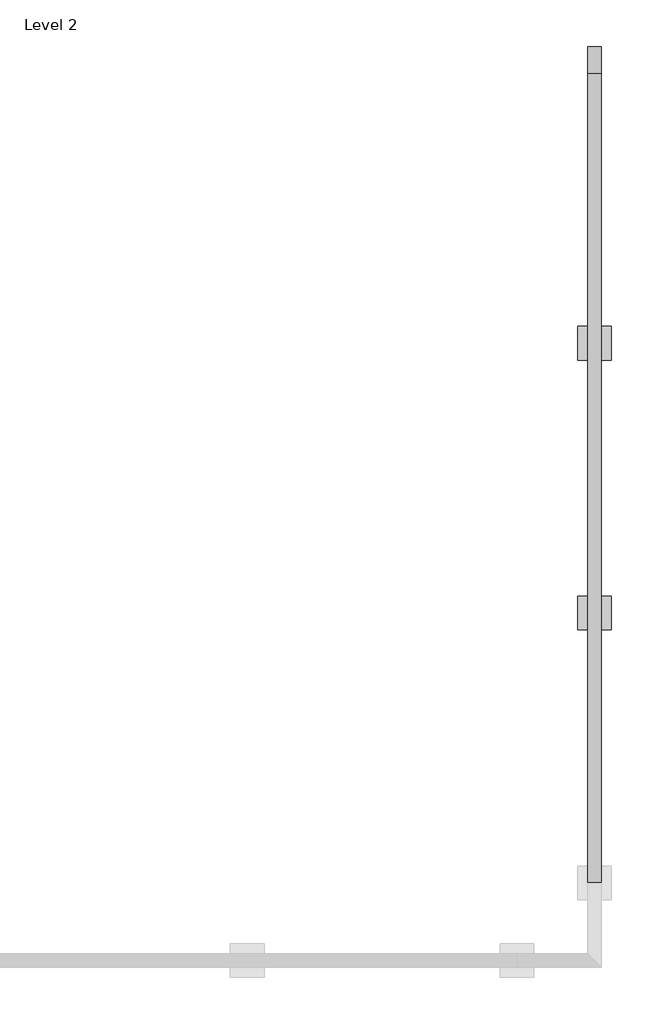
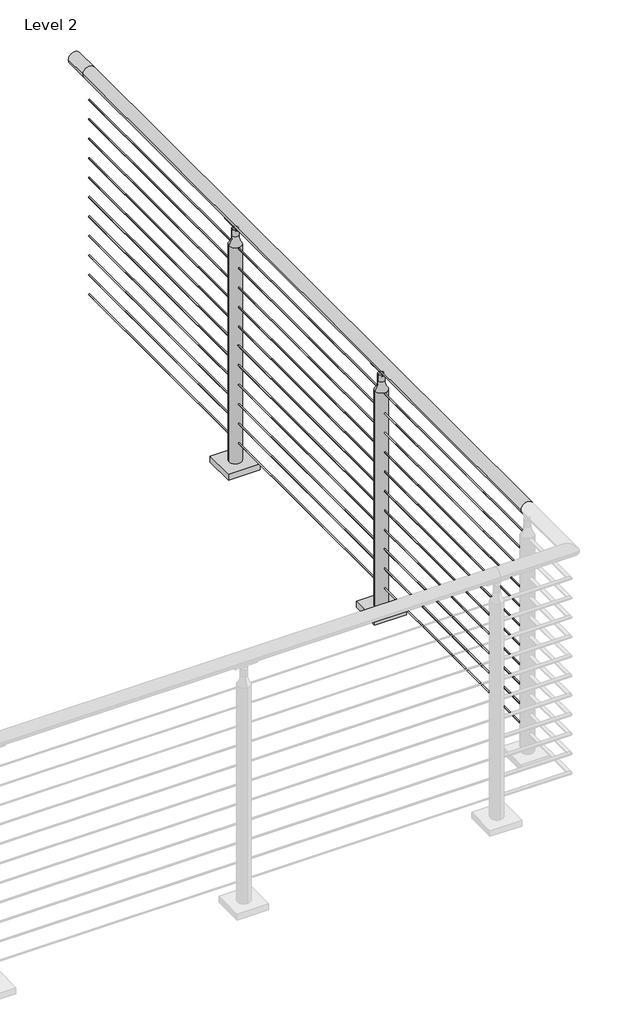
# One storey, part 13 of 21: 1 railing.
"""IFC4 building model written with IfcOpenShell, lengths in millimetres."""

from ifc_helpers import new_model, si_unit, point, frame, frame_2d, origin, place, context, project, spatial, polyline, circle_curve, ellipse_curve, trimmed, segment, composite_curve, outline, extrude, element, save
from ifc_brep_helpers import plane_surface, cylinder_surface, revolved_surface, advanced_brep

model = new_model("IFC4")

# Units and contexts
model_context = context("Model", 3, world=origin())
ifc_project = project(units=[si_unit("LENGTHUNIT", "METRE", prefix="MILLI")], contexts=[model_context])

# Site, building, storey
site = spatial("IfcSite", under=ifc_project)
building = spatial("IfcBuilding", under=site)
storey = spatial("IfcBuildingStorey", under=building, Name="Level 2", Elevation=3048.0)

# Railing
placement = place(None, origin())
element("IfcRailing", 1, ObjectType="VIVA-CIRCA-Cable-Floor Mount-Straight", at=placement, inside=storey, context=model_context, shape_type="SolidModel", body=[
    advanced_brep(
    [(20840.5072927, -51812.6426165, 4102.1), (20789.7072927, -51812.6426165, 4102.1), (20840.5072927, -48764.6426165, 4102.1), (20789.7072927, -48764.6426165, 4102.1), (20840.5072927, -48663.0426165, 4102.1), (20789.7072927, -48663.0426165, 4102.1)],
    [
        (0, 1, circle_curve(frame((20815.1072927, -51812.6426165, 4102.1), z_axis=(0.0, -1.0, 0.0), x_axis=(-1.0, 0.0, 0.0)), 25.4)),
        (1, 0, circle_curve(frame((20815.1072927, -51812.6426165, 4102.1), z_axis=(0.0, -1.0, 0.0), x_axis=(-1.0, 0.0, 0.0)), 25.4)),
        (0, 2),
        (2, 3, circle_curve(frame((20815.1072927, -48764.6426165, 4102.1), z_axis=(0.0, -1.0, 0.0), x_axis=(-1.0, 0.0, 0.0)), 25.4)),
        (3, 1),
        (3, 2, circle_curve(frame((20815.1072927, -48764.6426165, 4102.1), z_axis=(0.0, -1.0, 0.0), x_axis=(-1.0, 0.0, 0.0)), 25.4)),
        (4, 5, circle_curve(frame((20815.1072927, -48663.0426165, 4102.1), z_axis=(0.0, 1.0, 0.0), x_axis=(-1.0, 0.0, 0.0)), 25.4)),
        (5, 4, circle_curve(frame((20815.1072927, -48663.0426165, 4102.1), z_axis=(0.0, 1.0, 0.0), x_axis=(-1.0, 0.0, 0.0)), 25.4)),
        (2, 4),
        (5, 3),
    ],
    [
        plane_surface(frame((20815.1072927, -51812.6426165, 4127.5), z_axis=(0.0, -1.0, 0.0), x_axis=(0.0, 0.0, 1.0))),
        cylinder_surface(frame((20815.1072927, -51812.6426165, 4102.1), z_axis=(0.0, -1.0, 0.0), x_axis=(-1.0, 0.0, 0.0)), 25.4),
        plane_surface(frame((20815.1072927, -48663.0426165, 4127.5), z_axis=(0.0, 1.0, 0.0), x_axis=(0.0, 0.0, 1.0))),
        cylinder_surface(frame((20815.1072927, -48764.6426165, 4102.1), z_axis=(0.0, -1.0, 0.0), x_axis=(-1.0, 0.0, 0.0)), 25.4),
    ],
    [
        (0, [[1, 2]]),
        (1, [[-1, 3, 4, 5]]),
        (1, [[-2, -5, 6, -3]]),
        (2, [[7, 8]]),
        (3, [[-4, 9, -8, 10]]),
        (3, [[-6, -10, -7, -9]]),
    ],
),
    extrude(outline(composite_curve([segment(trimmed(circle_curve(frame_2d((3985.4124, 20815.1072927)), 2.3876), [point((3985.4124, 20812.7196927))], [point((3985.4124, 20817.4948927))], False, "CARTESIAN"), True, "CONTINUOUS"), segment(trimmed(circle_curve(frame_2d((3985.4124, 20815.1072927)), 2.3876), [point((3985.4124, 20817.4948927))], [point((3985.4124, 20812.7196927))], False, "CARTESIAN"), True, "CONTINUOUS")], self_intersect=False)), frame((0.0, -51812.6426165, 0.0), z_axis=(0.0, 1.0, 0.0), x_axis=(0.0, 0.0, 1.0)), (0.0, 0.0, 1.0), 3048.0),
    extrude(outline(composite_curve([segment(trimmed(circle_curve(frame_2d((3902.8624, 20815.1072927)), 2.3876), [point((3902.8624, 20812.7196927))], [point((3902.8624, 20817.4948927))], False, "CARTESIAN"), True, "CONTINUOUS"), segment(trimmed(circle_curve(frame_2d((3902.8624, 20815.1072927)), 2.3876), [point((3902.8624, 20817.4948927))], [point((3902.8624, 20812.7196927))], False, "CARTESIAN"), True, "CONTINUOUS")], self_intersect=False)), frame((0.0, -51812.6426165, 0.0), z_axis=(0.0, 1.0, 0.0), x_axis=(0.0, 0.0, 1.0)), (0.0, 0.0, 1.0), 3048.0),
    extrude(outline(composite_curve([segment(trimmed(circle_curve(frame_2d((3820.3124, 20815.1072927)), 2.3876), [point((3820.3124, 20812.7196927))], [point((3820.3124, 20817.4948927))], False, "CARTESIAN"), True, "CONTINUOUS"), segment(trimmed(circle_curve(frame_2d((3820.3124, 20815.1072927)), 2.3876), [point((3820.3124, 20817.4948927))], [point((3820.3124, 20812.7196927))], False, "CARTESIAN"), True, "CONTINUOUS")], self_intersect=False)), frame((0.0, -51812.6426165, 0.0), z_axis=(0.0, 1.0, 0.0), x_axis=(0.0, 0.0, 1.0)), (0.0, 0.0, 1.0), 3048.0),
    extrude(outline(composite_curve([segment(trimmed(circle_curve(frame_2d((3737.7624, 20815.1072927)), 2.3876), [point((3737.7624, 20812.7196927))], [point((3737.7624, 20817.4948927))], False, "CARTESIAN"), True, "CONTINUOUS"), segment(trimmed(circle_curve(frame_2d((3737.7624, 20815.1072927)), 2.3876), [point((3737.7624, 20817.4948927))], [point((3737.7624, 20812.7196927))], False, "CARTESIAN"), True, "CONTINUOUS")], self_intersect=False)), frame((0.0, -51812.6426165, 0.0), z_axis=(0.0, 1.0, 0.0), x_axis=(0.0, 0.0, 1.0)), (0.0, 0.0, 1.0), 3048.0),
    extrude(outline(composite_curve([segment(trimmed(circle_curve(frame_2d((3655.2124, 20815.1072927)), 2.3876), [point((3655.2124, 20812.7196927))], [point((3655.2124, 20817.4948927))], False, "CARTESIAN"), True, "CONTINUOUS"), segment(trimmed(circle_curve(frame_2d((3655.2124, 20815.1072927)), 2.3876), [point((3655.2124, 20817.4948927))], [point((3655.2124, 20812.7196927))], False, "CARTESIAN"), True, "CONTINUOUS")], self_intersect=False)), frame((0.0, -51812.6426165, 0.0), z_axis=(0.0, 1.0, 0.0), x_axis=(0.0, 0.0, 1.0)), (0.0, 0.0, 1.0), 3048.0),
    extrude(outline(composite_curve([segment(trimmed(circle_curve(frame_2d((3572.6624, 20815.1072927)), 2.3876), [point((3572.6624, 20812.7196927))], [point((3572.6624, 20817.4948927))], False, "CARTESIAN"), True, "CONTINUOUS"), segment(trimmed(circle_curve(frame_2d((3572.6624, 20815.1072927)), 2.3876), [point((3572.6624, 20817.4948927))], [point((3572.6624, 20812.7196927))], False, "CARTESIAN"), True, "CONTINUOUS")], self_intersect=False)), frame((0.0, -51812.6426165, 0.0), z_axis=(0.0, 1.0, 0.0), x_axis=(0.0, 0.0, 1.0)), (0.0, 0.0, 1.0), 3048.0),
    extrude(outline(composite_curve([segment(trimmed(circle_curve(frame_2d((3490.1124, 20815.1072927)), 2.3876), [point((3490.1124, 20812.7196927))], [point((3490.1124, 20817.4948927))], False, "CARTESIAN"), True, "CONTINUOUS"), segment(trimmed(circle_curve(frame_2d((3490.1124, 20815.1072927)), 2.3876), [point((3490.1124, 20817.4948927))], [point((3490.1124, 20812.7196927))], False, "CARTESIAN"), True, "CONTINUOUS")], self_intersect=False)), frame((0.0, -51812.6426165, 0.0), z_axis=(0.0, 1.0, 0.0), x_axis=(0.0, 0.0, 1.0)), (0.0, 0.0, 1.0), 3048.0),
    extrude(outline(composite_curve([segment(trimmed(circle_curve(frame_2d((3407.5624, 20815.1072927)), 2.3876), [point((3407.5624, 20812.7196927))], [point((3407.5624, 20817.4948927))], False, "CARTESIAN"), True, "CONTINUOUS"), segment(trimmed(circle_curve(frame_2d((3407.5624, 20815.1072927)), 2.3876), [point((3407.5624, 20817.4948927))], [point((3407.5624, 20812.7196927))], False, "CARTESIAN"), True, "CONTINUOUS")], self_intersect=False)), frame((0.0, -51812.6426165, 0.0), z_axis=(0.0, 1.0, 0.0), x_axis=(0.0, 0.0, 1.0)), (0.0, 0.0, 1.0), 3048.0),
    extrude(outline(composite_curve([segment(trimmed(circle_curve(frame_2d((3325.0124, 20815.1072927)), 2.3876), [point((3325.0124, 20812.7196927))], [point((3325.0124, 20817.4948927))], False, "CARTESIAN"), True, "CONTINUOUS"), segment(trimmed(circle_curve(frame_2d((3325.0124, 20815.1072927)), 2.3876), [point((3325.0124, 20817.4948927))], [point((3325.0124, 20812.7196927))], False, "CARTESIAN"), True, "CONTINUOUS")], self_intersect=False)), frame((0.0, -51812.6426165, 0.0), z_axis=(0.0, 1.0, 0.0), x_axis=(0.0, 0.0, 1.0)), (0.0, 0.0, 1.0), 3048.0),
    extrude(outline(composite_curve([segment(trimmed(circle_curve(frame_2d((3242.4624, 20815.1072927)), 2.3876), [point((3242.4624, 20812.7196927))], [point((3242.4624, 20817.4948927))], False, "CARTESIAN"), True, "CONTINUOUS"), segment(trimmed(circle_curve(frame_2d((3242.4624, 20815.1072927)), 2.3876), [point((3242.4624, 20817.4948927))], [point((3242.4624, 20812.7196927))], False, "CARTESIAN"), True, "CONTINUOUS")], self_intersect=False)), frame((0.0, -51812.6426165, 0.0), z_axis=(0.0, 1.0, 0.0), x_axis=(0.0, 0.0, 1.0)), (0.0, 0.0, 1.0), 3048.0),
    extrude(outline(composite_curve([segment(trimmed(circle_curve(frame_2d((3159.9124, 20815.1072927)), 2.3876), [point((3159.9124, 20812.7196927))], [point((3159.9124, 20817.4948927))], False, "CARTESIAN"), True, "CONTINUOUS"), segment(trimmed(circle_curve(frame_2d((3159.9124, 20815.1072927)), 2.3876), [point((3159.9124, 20817.4948927))], [point((3159.9124, 20812.7196927))], False, "CARTESIAN"), True, "CONTINUOUS")], self_intersect=False)), frame((0.0, -51812.6426165, 0.0), z_axis=(0.0, 1.0, 0.0), x_axis=(0.0, 0.0, 1.0)), (0.0, 0.0, 1.0), 3048.0),
    extrude(outline(composite_curve([segment(trimmed(circle_curve(frame_2d((4103.4254922, 20815.0105643)), 25.4345159), [point((4081.3106679, 20827.5743672))], [point((4081.2157471, 20802.6153306))], True, "CARTESIAN"), True, "CONTINUOUS"), segment(trimmed(circle_curve(frame_2d((4078.7132623, 20801.3706774)), 2.7949225), [point((4081.2157471, 20802.6153306))], [point((4076.3406769, 20799.8933724))], False, "CARTESIAN"), True, "CONTINUOUS"), segment(trimmed(circle_curve(frame_2d((4104.1881188, 20815.1440274)), 31.75), [point((4076.3406769, 20799.8933724))], [point((4076.9214354, 20831.4102646))], False, "CARTESIAN"), True, "CONTINUOUS"), segment(trimmed(circle_curve(frame_2d((4078.7923545, 20829.1219249)), 2.9558141), [point((4076.9214354, 20831.4102646))], [point((4081.3106679, 20827.5743672))], False, "CARTESIAN"), True, "CONTINUOUS")], self_intersect=False)), frame((0.0, -49825.4831415, 0.0), z_axis=(0.0, 1.0, 0.0), x_axis=(0.0, 0.0, 1.0)), (0.0, 0.0, 1.0), 90.4748),
    advanced_brep(
    [(20812.5672927, -49753.1778267, 4072.6506908), (20812.5672927, -49767.5457415, 4058.282776), (20812.5672927, -49792.9457415, 4058.282776), (20812.5672927, -49807.3136564, 4072.6506908), (20817.6472927, -49753.1778267, 4072.6506908), (20817.6472927, -49807.3136564, 4072.6506908), (20817.6472927, -49792.9457415, 4058.282776), (20817.6472927, -49767.5457415, 4058.282776)],
    [
        (0, 1, circle_curve(frame((20812.5672927, -49753.1778267, 4058.282776), z_axis=(1.0, 0.0, 0.0), x_axis=(0.0, -1.0, 0.0)), 14.3679149)),
        (1, 2, circle_curve(frame((20812.5672927, -49780.2457415, 4058.282776), z_axis=(-1.0, 0.0, 0.0), x_axis=(0.0, -1.0, 0.0)), 12.7)),
        (2, 3, circle_curve(frame((20812.5672927, -49807.3136564, 4058.282776), z_axis=(1.0, 0.0, 0.0), x_axis=(0.0, -1.0, 0.0)), 14.3679149)),
        (3, 0),
        (4, 5),
        (5, 6, circle_curve(frame((20817.6472927, -49807.3136564, 4058.282776), z_axis=(-1.0, 0.0, 0.0), x_axis=(0.0, -1.0, 0.0)), 14.3679149)),
        (6, 7, circle_curve(frame((20817.6472927, -49780.2457415, 4058.282776), z_axis=(1.0, 0.0, 0.0), x_axis=(0.0, -1.0, 0.0)), 12.7)),
        (7, 4, circle_curve(frame((20817.6472927, -49753.1778267, 4058.282776), z_axis=(-1.0, 0.0, 0.0), x_axis=(0.0, -1.0, 0.0)), 14.3679149)),
        (0, 4),
        (7, 1),
        (6, 2),
        (5, 3),
    ],
    [
        plane_surface(frame((20812.5672927, -49767.5457415, 4058.282776), z_axis=(-1.0, 0.0, 0.0), x_axis=(0.0, 0.0, -1.0))),
        plane_surface(frame((20817.6472927, -49767.5457415, 4058.282776), z_axis=(1.0, 0.0, 0.0), x_axis=(0.0, 0.0, 1.0))),
        revolved_surface(polyline([(20817.6472927, -49767.5457416, 4058.282776), (20812.5672927, -49767.5457416, 4058.282776)]), (20817.6472927, -49753.1778267, 4058.282776), (1.0, 0.0, 0.0)),
        cylinder_surface(frame((20817.6472927, -49780.2457415, 4058.282776), z_axis=(-1.0, 0.0, 0.0), x_axis=(0.0, -1.0, 0.0)), 12.7),
        revolved_surface(polyline([(20817.6472927, -49821.6815713, 4058.282776), (20812.5672927, -49821.6815713, 4058.282776)]), (20817.6472927, -49807.3136564, 4058.282776), (1.0, 0.0, 0.0)),
        plane_surface(frame((20812.5672927, -49807.3136564, 4072.6506908), z_axis=(0.0, 0.0, 1.0), x_axis=(1.0, 0.0, 0.0))),
    ],
    [
        (0, [[1, 2, 3, 4]]),
        (1, [[5, 6, 7, 8]]),
        (2, [[-1, 9, -8, 10]]),
        (3, [[-2, -10, -7, 11]]),
        (4, [[-3, -11, -6, 12]]),
        (5, [[-4, -12, -5, -9]]),
    ],
),
    extrude(outline(polyline([(20878.6072927, -49843.7457415), (20751.6072927, -49843.7457415), (20751.6072927, -49716.7457415), (20878.6072927, -49716.7457415), (20878.6072927, -49843.7457415)])), frame((0.0, 0.0, 3048.0), z_axis=(0.0, 0.0, 1.0), x_axis=(1.0, 0.0, 0.0)), (0.0, 0.0, 1.0), 25.4),
    advanced_brep(
    [(20840.5066905, -49780.2457415, 3989.1347854), (20789.7078949, -49780.2457415, 3989.1347854), (20789.7078949, -49780.2457415, 3073.4), (20840.5066905, -49780.2457415, 3073.4), (20827.8452612, -49780.2457415, 4027.3486202), (20802.3693241, -49780.2457415, 4027.3486202), (20827.8452612, -49780.2457415, 4056.5779599), (20802.3693241, -49780.2457415, 4056.5779599), (20815.1072927, -49780.2457415, 4063.238668), (20815.1072927, -49780.2457415, 3073.4)],
    [
        (0, 1, circle_curve(frame((20815.1072927, -49780.2457415, 3989.1347854), z_axis=(0.0, 0.0, -1.0), x_axis=(-1.0, 0.0, 0.0)), 25.3993978)),
        (1, 2),
        (2, 3, circle_curve(frame((20815.1072927, -49780.2457415, 3073.4), z_axis=(0.0, 0.0, 1.0), x_axis=(-1.0, 0.0, 0.0)), 25.3993978)),
        (3, 0),
        (1, 0, circle_curve(frame((20815.1072927, -49780.2457415, 3989.1347854), z_axis=(0.0, 0.0, -1.0), x_axis=(-1.0, 0.0, 0.0)), 25.3993978)),
        (3, 2, circle_curve(frame((20815.1072927, -49780.2457415, 3073.4), z_axis=(0.0, 0.0, 1.0), x_axis=(-1.0, 0.0, 0.0)), 25.3993978)),
        (4, 5, circle_curve(frame((20815.1072927, -49780.2457415, 4027.3486202), z_axis=(0.0, 0.0, -1.0), x_axis=(-1.0, 0.0, 0.0)), 12.7379685)),
        (5, 1, circle_curve(frame((20738.3714558, -49780.2457415, 4027.3486202), z_axis=(0.0, 1.0, 0.0), x_axis=(-1.0, 0.0, 0.0)), 63.9978683)),
        (0, 4, circle_curve(frame((20891.8431295, -49780.2457415, 4027.3486202), z_axis=(0.0, 1.0, 0.0), x_axis=(1.0, 0.0, 0.0)), 63.9978683)),
        (5, 4, circle_curve(frame((20815.1072927, -49780.2457415, 4027.3486202), z_axis=(0.0, 0.0, -1.0), x_axis=(-1.0, 0.0, 0.0)), 12.7379685)),
        (6, 7, circle_curve(frame((20815.1072927, -49780.2457415, 4056.5779599), z_axis=(0.0, 0.0, -1.0), x_axis=(-1.0, 0.0, 0.0)), 12.7379685)),
        (7, 5),
        (4, 6),
        (7, 6, circle_curve(frame((20815.1072927, -49780.2457415, 4056.5779599), z_axis=(0.0, 0.0, -1.0), x_axis=(-1.0, 0.0, 0.0)), 12.7379685)),
        (8, 7, circle_curve(frame((20815.1072927, -49780.2457415, 4047.7282394), z_axis=(0.0, -1.0, 0.0), x_axis=(-1.0, 0.0, 0.0)), 15.5104286)),
        (6, 8, circle_curve(frame((20815.1072927, -49780.2457415, 4047.7282394), z_axis=(0.0, -1.0, 0.0), x_axis=(1.0, 0.0, 0.0)), 15.5104286)),
        (2, 9),
        (9, 3),
    ],
    [
        cylinder_surface(frame((20815.1072927, -49780.2457415, 4152.9), z_axis=(0.0, 0.0, 1.0), x_axis=(-1.0, 0.0, 0.0)), 25.3993978),
        revolved_surface(trimmed(ellipse_curve(frame((20738.3714558, -49780.2457415, 4027.3486202), z_axis=(0.0, -1.0, 0.0), x_axis=(-1.0, 0.0, 0.0)), 63.9978683, 63.9978683), [point((20789.7078949, -49780.2457415, 3989.1347854))], [point((20802.3693241, -49780.2457415, 4027.3486202))], True, "CARTESIAN"), (20815.1072927, -49780.2457415, 4152.9), (0.0, 0.0, 1.0)),
        cylinder_surface(frame((20815.1072927, -49780.2457415, 4152.9), z_axis=(0.0, 0.0, 1.0), x_axis=(-1.0, 0.0, 0.0)), 12.7379685),
        revolved_surface(trimmed(ellipse_curve(frame((20815.1072927, -49780.2457415, 4047.7282394), z_axis=(0.0, 1.0, 0.0), x_axis=(-1.0, 0.0, 0.0)), 15.5104286, 15.5104286), [point((20802.3693241, -49780.2457415, 4056.5779599))], [point((20815.1072927, -49780.2457415, 4063.238668))], True, "CARTESIAN"), (20815.1072927, -49780.2457415, 4152.9), (0.0, 0.0, 1.0)),
        plane_surface(frame((20815.1072927, -49780.2457415, 3073.4), z_axis=(0.0, 0.0, -1.0), x_axis=(-1.0, 0.0, 0.0))),
    ],
    [
        (0, [[1, 2, 3, 4]]),
        (0, [[5, -4, 6, -2]]),
        (1, [[7, 8, -1, 9]]),
        (1, [[10, -9, -5, -8]]),
        (2, [[11, 12, -7, 13]]),
        (2, [[14, -13, -10, -12]]),
        (3, [[15, -11, 16]]),
        (3, [[-16, -14, -15]]),
        (4, [[-3, 17, 18]]),
        (4, [[-6, -18, -17]]),
    ],
),
    extrude(outline(composite_curve([segment(trimmed(circle_curve(frame_2d((4103.4254922, 20815.0105643)), 25.4345159), [point((4081.3106679, 20827.5743672))], [point((4081.2157471, 20802.6153306))], True, "CARTESIAN"), True, "CONTINUOUS"), segment(trimmed(circle_curve(frame_2d((4078.7132623, 20801.3706774)), 2.7949225), [point((4081.2157471, 20802.6153306))], [point((4076.3406769, 20799.8933724))], False, "CARTESIAN"), True, "CONTINUOUS"), segment(trimmed(circle_curve(frame_2d((4104.1881188, 20815.1440274)), 31.75), [point((4076.3406769, 20799.8933724))], [point((4076.9214354, 20831.4102646))], False, "CARTESIAN"), True, "CONTINUOUS"), segment(trimmed(circle_curve(frame_2d((4078.7923545, 20829.1219249)), 2.9558141), [point((4076.9214354, 20831.4102646))], [point((4081.3106679, 20827.5743672))], False, "CARTESIAN"), True, "CONTINUOUS")], self_intersect=False)), frame((0.0, -50841.4831415, 0.0), z_axis=(0.0, 1.0, 0.0), x_axis=(0.0, 0.0, 1.0)), (0.0, 0.0, 1.0), 90.4748),
    advanced_brep(
    [(20812.5672927, -50769.1778267, 4072.6506908), (20812.5672927, -50783.5457415, 4058.282776), (20812.5672927, -50808.9457415, 4058.282776), (20812.5672927, -50823.3136564, 4072.6506908), (20817.6472927, -50769.1778267, 4072.6506908), (20817.6472927, -50823.3136564, 4072.6506908), (20817.6472927, -50808.9457415, 4058.282776), (20817.6472927, -50783.5457415, 4058.282776)],
    [
        (0, 1, circle_curve(frame((20812.5672927, -50769.1778267, 4058.282776), z_axis=(1.0, 0.0, 0.0), x_axis=(0.0, -1.0, 0.0)), 14.3679149)),
        (1, 2, circle_curve(frame((20812.5672927, -50796.2457415, 4058.282776), z_axis=(-1.0, 0.0, 0.0), x_axis=(0.0, -1.0, 0.0)), 12.7)),
        (2, 3, circle_curve(frame((20812.5672927, -50823.3136564, 4058.282776), z_axis=(1.0, 0.0, 0.0), x_axis=(0.0, -1.0, 0.0)), 14.3679149)),
        (3, 0),
        (4, 5),
        (5, 6, circle_curve(frame((20817.6472927, -50823.3136564, 4058.282776), z_axis=(-1.0, 0.0, 0.0), x_axis=(0.0, -1.0, 0.0)), 14.3679149)),
        (6, 7, circle_curve(frame((20817.6472927, -50796.2457415, 4058.282776), z_axis=(1.0, 0.0, 0.0), x_axis=(0.0, -1.0, 0.0)), 12.7)),
        (7, 4, circle_curve(frame((20817.6472927, -50769.1778267, 4058.282776), z_axis=(-1.0, 0.0, 0.0), x_axis=(0.0, -1.0, 0.0)), 14.3679149)),
        (0, 4),
        (7, 1),
        (6, 2),
        (5, 3),
    ],
    [
        plane_surface(frame((20812.5672927, -50783.5457415, 4058.282776), z_axis=(-1.0, 0.0, 0.0), x_axis=(0.0, 0.0, -1.0))),
        plane_surface(frame((20817.6472927, -50783.5457415, 4058.282776), z_axis=(1.0, 0.0, 0.0), x_axis=(0.0, 0.0, 1.0))),
        revolved_surface(polyline([(20817.6472927, -50783.5457416, 4058.282776), (20812.5672927, -50783.5457416, 4058.282776)]), (20817.6472927, -50769.1778267, 4058.282776), (1.0, 0.0, 0.0)),
        cylinder_surface(frame((20817.6472927, -50796.2457415, 4058.282776), z_axis=(-1.0, 0.0, 0.0), x_axis=(0.0, -1.0, 0.0)), 12.7),
        revolved_surface(polyline([(20817.6472927, -50837.6815713, 4058.282776), (20812.5672927, -50837.6815713, 4058.282776)]), (20817.6472927, -50823.3136564, 4058.282776), (1.0, 0.0, 0.0)),
        plane_surface(frame((20812.5672927, -50823.3136564, 4072.6506908), z_axis=(0.0, 0.0, 1.0), x_axis=(1.0, 0.0, 0.0))),
    ],
    [
        (0, [[1, 2, 3, 4]]),
        (1, [[5, 6, 7, 8]]),
        (2, [[-1, 9, -8, 10]]),
        (3, [[-2, -10, -7, 11]]),
        (4, [[-3, -11, -6, 12]]),
        (5, [[-4, -12, -5, -9]]),
    ],
),
    extrude(outline(polyline([(20878.6072927, -50859.7457415), (20751.6072927, -50859.7457415), (20751.6072927, -50732.7457415), (20878.6072927, -50732.7457415), (20878.6072927, -50859.7457415)])), frame((0.0, 0.0, 3048.0), z_axis=(0.0, 0.0, 1.0), x_axis=(1.0, 0.0, 0.0)), (0.0, 0.0, 1.0), 25.4),
    advanced_brep(
    [(20840.5066905, -50796.2457415, 3989.1347854), (20789.7078949, -50796.2457415, 3989.1347854), (20789.7078949, -50796.2457415, 3073.4), (20840.5066905, -50796.2457415, 3073.4), (20827.8452612, -50796.2457415, 4027.3486202), (20802.3693241, -50796.2457415, 4027.3486202), (20827.8452612, -50796.2457415, 4056.5779599), (20802.3693241, -50796.2457415, 4056.5779599), (20815.1072927, -50796.2457415, 4063.238668), (20815.1072927, -50796.2457415, 3073.4)],
    [
        (0, 1, circle_curve(frame((20815.1072927, -50796.2457415, 3989.1347854), z_axis=(0.0, 0.0, -1.0), x_axis=(-1.0, 0.0, 0.0)), 25.3993978)),
        (1, 2),
        (2, 3, circle_curve(frame((20815.1072927, -50796.2457415, 3073.4), z_axis=(0.0, 0.0, 1.0), x_axis=(-1.0, 0.0, 0.0)), 25.3993978)),
        (3, 0),
        (1, 0, circle_curve(frame((20815.1072927, -50796.2457415, 3989.1347854), z_axis=(0.0, 0.0, -1.0), x_axis=(-1.0, 0.0, 0.0)), 25.3993978)),
        (3, 2, circle_curve(frame((20815.1072927, -50796.2457415, 3073.4), z_axis=(0.0, 0.0, 1.0), x_axis=(-1.0, 0.0, 0.0)), 25.3993978)),
        (4, 5, circle_curve(frame((20815.1072927, -50796.2457415, 4027.3486202), z_axis=(0.0, 0.0, -1.0), x_axis=(-1.0, 0.0, 0.0)), 12.7379685)),
        (5, 1, circle_curve(frame((20738.3714558, -50796.2457415, 4027.3486202), z_axis=(0.0, 1.0, 0.0), x_axis=(-1.0, 0.0, 0.0)), 63.9978683)),
        (0, 4, circle_curve(frame((20891.8431295, -50796.2457415, 4027.3486202), z_axis=(0.0, 1.0, 0.0), x_axis=(1.0, 0.0, 0.0)), 63.9978683)),
        (5, 4, circle_curve(frame((20815.1072927, -50796.2457415, 4027.3486202), z_axis=(0.0, 0.0, -1.0), x_axis=(-1.0, 0.0, 0.0)), 12.7379685)),
        (6, 7, circle_curve(frame((20815.1072927, -50796.2457415, 4056.5779599), z_axis=(0.0, 0.0, -1.0), x_axis=(-1.0, 0.0, 0.0)), 12.7379685)),
        (7, 5),
        (4, 6),
        (7, 6, circle_curve(frame((20815.1072927, -50796.2457415, 4056.5779599), z_axis=(0.0, 0.0, -1.0), x_axis=(-1.0, 0.0, 0.0)), 12.7379685)),
        (8, 7, circle_curve(frame((20815.1072927, -50796.2457415, 4047.7282394), z_axis=(0.0, -1.0, 0.0), x_axis=(-1.0, 0.0, 0.0)), 15.5104286)),
        (6, 8, circle_curve(frame((20815.1072927, -50796.2457415, 4047.7282394), z_axis=(0.0, -1.0, 0.0), x_axis=(1.0, 0.0, 0.0)), 15.5104286)),
        (2, 9),
        (9, 3),
    ],
    [
        cylinder_surface(frame((20815.1072927, -50796.2457415, 4152.9), z_axis=(0.0, 0.0, 1.0), x_axis=(-1.0, 0.0, 0.0)), 25.3993978),
        revolved_surface(trimmed(ellipse_curve(frame((20738.3714558, -50796.2457415, 4027.3486202), z_axis=(0.0, -1.0, 0.0), x_axis=(-1.0, 0.0, 0.0)), 63.9978683, 63.9978683), [point((20789.7078949, -50796.2457415, 3989.1347854))], [point((20802.3693241, -50796.2457415, 4027.3486202))], True, "CARTESIAN"), (20815.1072927, -50796.2457415, 4152.9), (0.0, 0.0, 1.0)),
        cylinder_surface(frame((20815.1072927, -50796.2457415, 4152.9), z_axis=(0.0, 0.0, 1.0), x_axis=(-1.0, 0.0, 0.0)), 12.7379685),
        revolved_surface(trimmed(ellipse_curve(frame((20815.1072927, -50796.2457415, 4047.7282394), z_axis=(0.0, 1.0, 0.0), x_axis=(-1.0, 0.0, 0.0)), 15.5104286, 15.5104286), [point((20802.3693241, -50796.2457415, 4056.5779599))], [point((20815.1072927, -50796.2457415, 4063.238668))], True, "CARTESIAN"), (20815.1072927, -50796.2457415, 4152.9), (0.0, 0.0, 1.0)),
        plane_surface(frame((20815.1072927, -50796.2457415, 3073.4), z_axis=(0.0, 0.0, -1.0), x_axis=(-1.0, 0.0, 0.0))),
    ],
    [
        (0, [[1, 2, 3, 4]]),
        (0, [[5, -4, 6, -2]]),
        (1, [[7, 8, -1, 9]]),
        (1, [[10, -9, -5, -8]]),
        (2, [[11, 12, -7, 13]]),
        (2, [[14, -13, -10, -12]]),
        (3, [[15, -11, 16]]),
        (3, [[-16, -14, -15]]),
        (4, [[-3, 17, 18]]),
        (4, [[-6, -18, -17]]),
    ],
),
])

save(model, "model.ifc")
